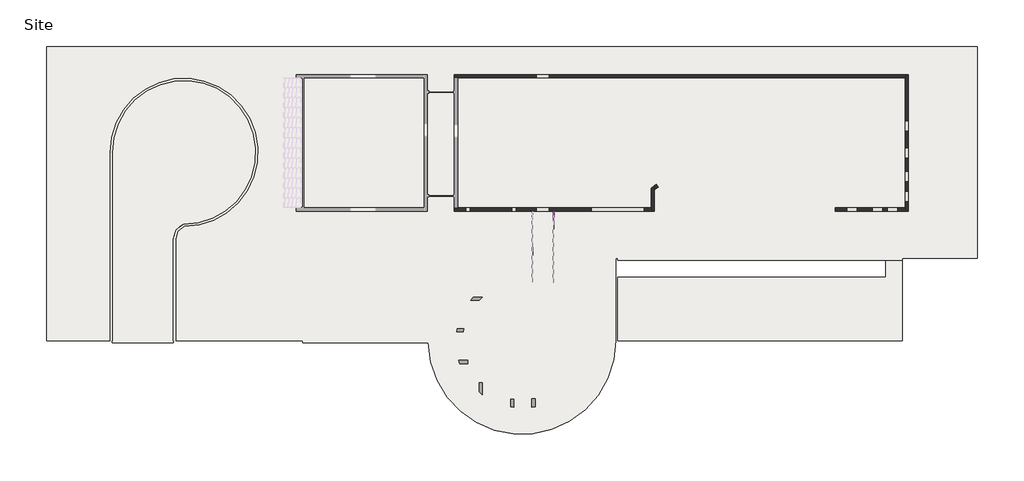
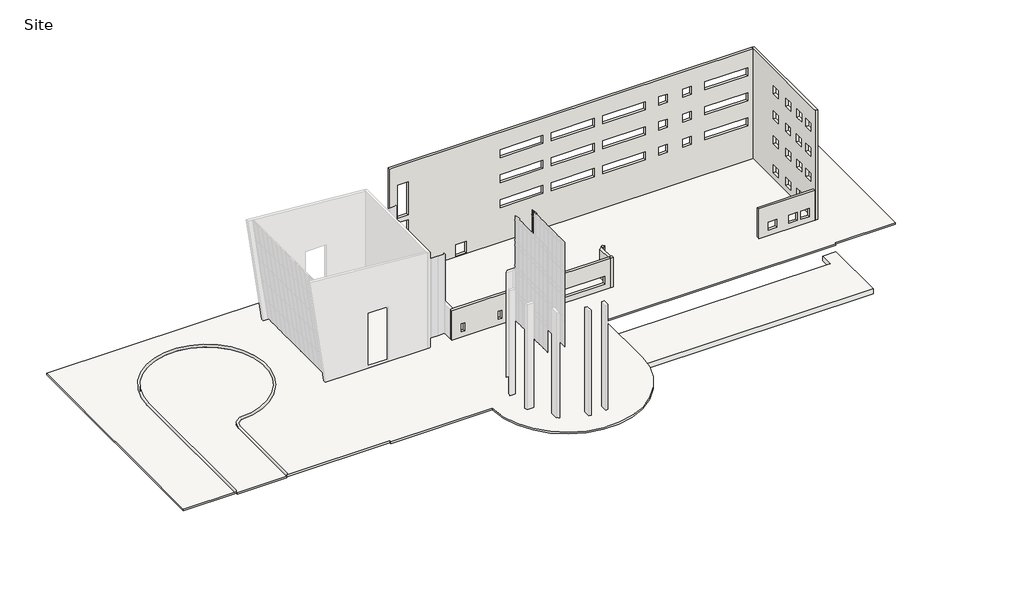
# One storey, part 4 of 4: 17 members, 6 walls, 3 slabs, 1 plate.
"""IFC4 building model written with IfcOpenShell, lengths in millimetres."""

from ifc_helpers import new_model, si_unit, point, frame, frame_2d, origin, place, context, project, spatial, polyline, circle_curve, trimmed, segment, composite_curve, outline, extrude, faceted_brep, transform, mapped, element, save
from ifc_brep_helpers import plane_surface, cylinder_surface, revolved_surface, advanced_brep
from components import member_5d07894b, member_3ba9e939, member_ad567e07, member_7db1855a, member_ffd4c858, member_15823cb3, member_e9605c56, system_panel_glazed_cc98a0ec

model = new_model("IFC4")

# Units and contexts
model_context = context("Model", 3, world=origin())
ifc_project = project(units=[si_unit("LENGTHUNIT", "METRE", prefix="MILLI")], contexts=[model_context])

# Site, building, storey
site = spatial("IfcSite", under=ifc_project)
building = spatial("IfcBuilding", under=site)
storey = spatial("IfcBuildingStorey", under=building, Name="Site", Elevation=-152.4)

# Members
placement = place(None, origin())
member_shape = member_5d07894b(model_context)
element("IfcMember", 1, ObjectType="Rectangular Mullion1 : 2.5\" x 5\" rectangular", at=placement, inside=storey, context=model_context, shape_type="MappedRepresentation", body=[
    mapped(member_shape, transform((10878.8276119, 37629.311889, -88.9), x_axis=(0.0, 1.0, 0.0), y_axis=(1.0, 0.0, 0.0), z_axis=(0.0, 0.0, -1.0))),
])
member_2_shape = member_3ba9e939(model_context)
element("IfcMember", 2, ObjectType="Rectangular Mullion1 : 2.5\" x 5\" rectangular", at=placement, inside=storey, context=model_context, shape_type="MappedRepresentation", body=[
    mapped(member_2_shape, transform((10878.8276119, 37629.311889, 5518.15), x_axis=(0.0, 1.0, 0.0), y_axis=(1.0, 0.0, 0.0), z_axis=(0.0, 0.0, -1.0))),
])
element("IfcMember", 3, ObjectType="Rectangular Mullion1 : 2.5\" x 5\" rectangular", at=placement, inside=storey, context=model_context, shape_type="MappedRepresentation", body=[
    mapped(member_2_shape, transform((10878.8276119, 37629.311889, 10242.55), x_axis=(0.0, 1.0, 0.0), y_axis=(1.0, 0.0, 0.0), z_axis=(0.0, 0.0, -1.0))),
])
element("IfcMember", 4, ObjectType="Rectangular Mullion1 : 2.5\" x 5\" rectangular", at=placement, inside=storey, context=model_context, shape_type="MappedRepresentation", body=[
    mapped(member_2_shape, transform((10878.8276119, 37629.311889, 14966.95), x_axis=(0.0, 1.0, 0.0), y_axis=(1.0, 0.0, 0.0), z_axis=(0.0, 0.0, -1.0))),
])
member_3_shape = member_ad567e07(model_context)
element("IfcMember", 5, ObjectType="Rectangular Mullion1 : 2.5\" x 5\" rectangular", at=placement, inside=storey, context=model_context, shape_type="MappedRepresentation", body=[
    mapped(member_3_shape, transform((10878.8276119, 37629.311889, 18776.95), x_axis=(0.0, 1.0, 0.0), y_axis=(1.0, 0.0, 0.0), z_axis=(0.0, 0.0, -1.0))),
])
member_4_shape = member_7db1855a(model_context)
element("IfcMember", 6, ObjectType="Rectangular Mullion1 : 2.5\" x 5\" rectangular", at=placement, inside=storey, context=model_context, shape_type="MappedRepresentation", body=[
    mapped(member_4_shape, transform((10878.8276119, 37629.311889, 14052.55), x_axis=(0.0, 1.0, 0.0), y_axis=(1.0, 0.0, 0.0), z_axis=(0.0, 0.0, -1.0))),
])
element("IfcMember", 7, ObjectType="Rectangular Mullion1 : 2.5\" x 5\" rectangular", at=placement, inside=storey, context=model_context, shape_type="MappedRepresentation", body=[
    mapped(member_4_shape, transform((10878.8276119, 37629.311889, 4603.75), x_axis=(0.0, 1.0, 0.0), y_axis=(1.0, 0.0, 0.0), z_axis=(0.0, 0.0, -1.0))),
])
element("IfcMember", 8, ObjectType="Rectangular Mullion1 : 2.5\" x 5\" rectangular", at=placement, inside=storey, context=model_context, shape_type="MappedRepresentation", body=[
    mapped(member_4_shape, transform((10878.8276119, 37629.311889, 9328.15), x_axis=(0.0, 1.0, 0.0), y_axis=(1.0, 0.0, 0.0), z_axis=(0.0, 0.0, -1.0))),
])
member_5_shape = member_ffd4c858(model_context)
element("IfcMember", 9, ObjectType="Rectangular Mullion1 : 2.5\" x 5\" rectangular", at=placement, inside=storey, context=model_context, shape_type="MappedRepresentation", body=[
    mapped(member_5_shape, transform((10878.8276119, 38086.511889, 14935.2), x_axis=(0.0, 0.0, 1.0), y_axis=(1.0, 0.0, 0.0), z_axis=(0.0, 1.0, 0.0))),
])
element("IfcMember", 10, ObjectType="Rectangular Mullion1 : 2.5\" x 5\" rectangular", at=placement, inside=storey, context=model_context, shape_type="MappedRepresentation", body=[
    mapped(member_5_shape, transform((10878.8276119, 38086.511889, 10210.8), x_axis=(0.0, 0.0, 1.0), y_axis=(1.0, 0.0, 0.0), z_axis=(0.0, 1.0, 0.0))),
])
element("IfcMember", 11, ObjectType="Rectangular Mullion1 : 2.5\" x 5\" rectangular", at=placement, inside=storey, context=model_context, shape_type="MappedRepresentation", body=[
    mapped(member_5_shape, transform((10878.8276119, 38086.511889, 5486.4), x_axis=(0.0, 0.0, 1.0), y_axis=(1.0, 0.0, 0.0), z_axis=(0.0, 1.0, 0.0))),
])
element("IfcMember", 12, ObjectType="Rectangular Mullion1 : 2.5\" x 5\" rectangular", at=placement, inside=storey, context=model_context, shape_type="MappedRepresentation", body=[
    mapped(member_5_shape, transform((10878.8276119, 38086.511889, 9296.4), x_axis=(0.0, 0.0, 1.0), y_axis=(1.0, 0.0, 0.0), z_axis=(0.0, 1.0, 0.0))),
])
element("IfcMember", 13, ObjectType="Rectangular Mullion1 : 2.5\" x 5\" rectangular", at=placement, inside=storey, context=model_context, shape_type="MappedRepresentation", body=[
    mapped(member_5_shape, transform((10878.8276119, 38086.511889, 4572.0), x_axis=(0.0, 0.0, 1.0), y_axis=(1.0, 0.0, 0.0), z_axis=(0.0, 1.0, 0.0))),
])
element("IfcMember", 14, ObjectType="Rectangular Mullion1 : 2.5\" x 5\" rectangular", at=placement, inside=storey, context=model_context, shape_type="MappedRepresentation", body=[
    mapped(member_5_shape, transform((10878.8276119, 38086.511889, 14020.8), x_axis=(0.0, 0.0, 1.0), y_axis=(1.0, 0.0, 0.0), z_axis=(0.0, 1.0, 0.0))),
])
element("IfcMember", 15, ObjectType="Rectangular Mullion1 : 2.5\" x 5\" rectangular", at=placement, inside=storey, context=model_context, shape_type="MappedRepresentation", body=[
    mapped(member_5_shape, transform((10878.8276119, 38086.511889, 18745.2), x_axis=(0.0, 0.0, 1.0), y_axis=(1.0, 0.0, 0.0), z_axis=(0.0, 1.0, 0.0))),
])
member_6_shape = member_15823cb3(model_context)
element("IfcMember", 16, ObjectType="Rectangular Mullion1 : 2.5\" x 5\" rectangular", at=placement, inside=storey, context=model_context, shape_type="MappedRepresentation", body=[
    mapped(member_6_shape, transform((10878.8276119, 37629.311889, -152.4), x_axis=(0.0, 0.0, -1.0), y_axis=(1.0, 0.0, 0.0), z_axis=(0.0, -1.0, 0.0))),
])
member_7_shape = member_e9605c56(model_context)
element("IfcMember", 17, ObjectType="Rectangular Mullion1 : 2.5\" x 5\" rectangular", at=placement, inside=storey, context=model_context, shape_type="MappedRepresentation", body=[
    mapped(member_7_shape, transform((10878.8276119, 37629.311889, 19659.6), x_axis=(0.0, 0.0, 1.0), y_axis=(1.0, 0.0, 0.0), z_axis=(0.0, 1.0, 0.0))),
])

# Plate
system_panel_glazed_shape = system_panel_glazed_cc98a0ec(model_context)
element("IfcPlate", 18, ObjectType="System Panel : Glazed", at=placement, inside=storey, context=model_context, shape_type="MappedRepresentation", body=[
    mapped(system_panel_glazed_shape, transform((10878.8276119, 37842.036889, 18776.95), x_axis=(0.0, 1.0, 0.0), y_axis=(-1.0, 0.0, 0.0), z_axis=(0.0, 0.0, 1.0))),
])

# Slabs
element("IfcSlab", 19, ObjectType="a_drive", at=placement, inside=storey, context=model_context, shape_type="SweptSolid", body=[
    extrude(outline(composite_curve([segment(trimmed(circle_curve(frame_2d((-42359.2307976, 46620.911889)), 10363.2), [point((-52722.4307976, 46620.911889))], [point((-42384.6461103, 36257.743054))], False, "CARTESIAN"), True, "CONTINUOUS"), segment(trimmed(circle_curve(frame_2d((-41679.1721267, 34169.1174245)), 2204.5522361), [point((-42384.6461103, 36257.743054))], [point((-43883.2307976, 34122.4704857))], True, "CARTESIAN"), True, "CONTINUOUS"), segment(polyline([(-43883.2307976, 34122.4704857), (-43883.2307976, 19188.911889), (-52722.4307976, 19188.911889), (-52722.4307976, 46620.911889)]), True, "CONTINUOUS")], self_intersect=False)), frame((0.0, 0.0, -457.2), z_axis=(0.0, 0.0, 1.0), x_axis=(1.0, 0.0, 0.0)), (0.0, 0.0, 1.0), 304.8),
])
element("IfcSlab", 20, ObjectType="a_site paving", at=placement, inside=storey, context=model_context, shape_type="SweptSolid", body=[
    extrude(outline(composite_curve([segment(polyline([(71940.7692024, 61860.911889), (71940.7692024, 31380.911889), (61120.3692024, 31380.911889), (61120.3692024, 31076.111889), (20124.7692024, 31076.111889), (20124.7692024, 31380.911889), (19819.9692024, 31380.911889), (19819.9692024, 19493.711889)]), True, "CONTINUOUS"), segment(trimmed(circle_curve(frame_2d((6332.9997246, 19493.711889)), 13486.9694778), [point((19819.9692024, 19493.711889))], [point((-7150.5251356, 19188.911889))], False, "CARTESIAN"), True, "CONTINUOUS"), segment(polyline([(-7150.5251356, 19188.911889), (-25290.4307976, 19188.911889), (-25290.4307976, 19493.711889), (-43883.2307976, 19493.711889), (-43883.2307976, 34122.4704857)]), True, "CONTINUOUS"), segment(trimmed(circle_curve(frame_2d((-41679.1721267, 34169.1174245)), 2204.5522361), [point((-43883.2307976, 34122.4704857))], [point((-42384.6461103, 36257.743054))], False, "CARTESIAN"), True, "CONTINUOUS"), segment(trimmed(circle_curve(frame_2d((-42359.2307976, 46620.911889)), 10363.2), [point((-42384.6461103, 36257.743054))], [point((-52722.4307976, 46620.911889))], True, "CARTESIAN"), True, "CONTINUOUS"), segment(polyline([(-52722.4307976, 46620.911889), (-52722.4307976, 19493.711889), (-62171.2307976, 19493.711889), (-62171.2307976, 61860.911889), (71940.7692024, 61860.911889)]), True, "CONTINUOUS")], self_intersect=False)), frame((0.0, 0.0, -457.2), z_axis=(0.0, 0.0, 1.0), x_axis=(1.0, 0.0, 0.0)), (0.0, 0.0, 1.0), 304.8),
])
element("IfcSlab", 21, ObjectType="water feature", at=placement, inside=storey, context=model_context, shape_type="SweptSolid", body=[
    extrude(outline(polyline([(20124.7692024, 28656.761889), (58732.7692024, 28656.761889), (58732.7692024, 31076.111889), (61120.3692024, 31076.111889), (61120.3692024, 19493.711889), (20124.7692024, 19493.711889), (20124.7692024, 28656.761889)])), frame((0.0, 0.0, -2590.8), z_axis=(0.0, 0.0, 1.0), x_axis=(1.0, 0.0, 0.0)), (0.0, 0.0, 1.0), 914.4),
])

# Walls
element("IfcWall", 22, ObjectType="Stone on CMU", at=placement, inside=storey, context=model_context, shape_type="AdvancedBrep", body=[
    advanced_brep(
    [(24926.9567024, 41466.5312272, -152.4), (24926.9567024, 38618.324389, -152.4), (24926.9567024, 38164.299389, -152.4), (24926.9567024, 38164.299389, 5486.4), (24926.9567024, 38618.324389, 5486.4), (24926.9567024, 38618.324389, 5181.6), (24926.9567024, 41466.5312272, 5181.6), (25380.9817024, 41789.4772012, -152.4), (25380.9817024, 41789.4772012, 5181.6), (25380.9817024, 38618.324389, 5181.6), (25380.9817024, 38618.324389, 5486.4), (25380.9817024, 38164.299389, 5486.4), (25380.9817024, 38164.299389, -152.4), (25380.9817024, 41234.3316602, -152.4)],
    [
        (0, 1),
        (1, 2),
        (2, 3),
        (3, 4),
        (4, 5),
        (5, 6),
        (6, 0),
        (7, 8),
        (8, 9),
        (9, 10),
        (10, 11),
        (11, 12),
        (12, 13),
        (13, 7),
        (0, 7, circle_curve(frame((38486.136956, 22884.5054507, -152.4), z_axis=(0.0, 0.0, -1.0), x_axis=(1.0, 0.0, 0.0)), 23003.1095965)),
        (12, 2),
        (3, 11),
        (10, 4),
        (9, 5),
        (8, 6, circle_curve(frame((38486.136956, 22884.5054507, 5181.6), z_axis=(0.0, 0.0, 1.0), x_axis=(1.0, 0.0, 0.0)), 23003.1095965)),
    ],
    [
        plane_surface(frame((24926.9567024, 41350.796414, -152.4), z_axis=(-1.0, 0.0, 0.0), x_axis=(0.0, -1.0, 0.0))),
        plane_surface(frame((25380.9817024, 41350.796414, -152.4), z_axis=(1.0, 0.0, 0.0), x_axis=(0.0, 1.0, 0.0))),
        plane_surface(frame((24926.9567024, 41350.796414, -152.4), z_axis=(0.0, 0.0, -1.0), x_axis=(1.0, 0.0, 0.0))),
        plane_surface(frame((24926.9567024, 38391.311889, 5486.4), z_axis=(0.0, 0.0, 1.0), x_axis=(1.0, 0.0, 0.0))),
        plane_surface(frame((24926.9567024, 38618.324389, 5486.4), z_axis=(0.0, 1.0, 0.0), x_axis=(1.0, 0.0, 0.0))),
        plane_surface(frame((24926.9567024, 38618.324389, 5181.6), z_axis=(0.0, 0.0, 1.0), x_axis=(1.0, 0.0, 0.0))),
        plane_surface(frame((24696.7692024, 38164.299389, -152.4), z_axis=(0.0, -1.0, 0.0), x_axis=(1.0, 0.0, 0.0))),
        cylinder_surface(frame((38486.136956, 22884.5054507, -152.4), z_axis=(0.0, 0.0, 1.0), x_axis=(1.0, 0.0, 0.0)), 23003.1095965),
    ],
    [
        (0, [[1, 2, 3, 4, 5, 6, 7]]),
        (1, [[8, 9, 10, 11, 12, 13, 14]]),
        (2, [[-2, -1, 15, -14, -13, 16]]),
        (3, [[-4, 17, -11, 18]]),
        (4, [[-5, -18, -10, 19]]),
        (5, [[-6, -19, -9, 20]]),
        (6, [[-3, -16, -12, -17]]),
        (7, [[-7, -20, -8, -15]]),
    ],
),
])
element("IfcWall", 23, ObjectType="Stone on CMU", at=placement, inside=storey, context=model_context, shape_type="Brep", body=[
    faceted_brep([(24926.9567024, 38618.324389, 5486.4), (6799.2942024, 38618.324389, 5486.4), (6656.4192024, 38618.324389, 5486.4), (-2965.7977165, 38618.324389, 5486.4), (-3419.8227165, 38618.324389, 5486.4), (-3419.8227165, 38164.299389, 5486.4), (24926.9567024, 38164.299389, 5486.4), (24926.9567024, 38618.324389, -152.4), (-2965.7977165, 38618.324389, -152.4), (-3419.8227165, 38618.324389, -152.4), (24926.9567024, 38618.324389, 5181.6), (4884.7692024, 38618.324389, 2438.4), (4884.7692024, 38618.324389, 914.4), (5494.3692024, 38618.324389, 914.4), (5494.3692024, 38618.324389, 2438.4), (-1750.9807976, 38618.324389, 2438.4), (-1750.9807976, 38618.324389, 914.4), (-1141.3807976, 38618.324389, 914.4), (-1141.3807976, 38618.324389, 2438.4), (16314.7692024, 38618.324389, 2438.4), (16314.7692024, 38618.324389, 914.4), (23934.7692024, 38618.324389, 914.4), (23934.7692024, 38618.324389, 2438.4), (8404.2567024, 38618.324389, 0.0), (10233.0567024, 38618.324389, 0.0), (10233.0567024, 38618.324389, 2133.6), (8404.2567024, 38618.324389, 2133.6), (24926.9567024, 38164.299389, -152.4), (-3419.8227165, 38164.299389, -152.4), (4884.7692024, 38164.299389, 2438.4), (5494.3692024, 38164.299389, 2438.4), (5494.3692024, 38164.299389, 914.4), (4884.7692024, 38164.299389, 914.4), (-1750.9807976, 38164.299389, 2438.4), (-1141.3807976, 38164.299389, 2438.4), (-1141.3807976, 38164.299389, 914.4), (-1750.9807976, 38164.299389, 914.4), (16314.7692024, 38164.299389, 2438.4), (23934.7692024, 38164.299389, 2438.4), (23934.7692024, 38164.299389, 914.4), (16314.7692024, 38164.299389, 914.4), (8404.2567024, 38164.299389, 0.0), (8404.2567024, 38164.299389, 2133.6), (10233.0567024, 38164.299389, 2133.6), (10233.0567024, 38164.299389, 0.0)], [[[0, 1, 2, 3, 4, 5, 6]], [[7, 8, 9, 4, 3, 2, 1, 0, 10], [11, 12, 13, 14], [15, 16, 17, 18], [19, 20, 21, 22], [23, 24, 25, 26]], [[27, 6, 5, 28], [29, 30, 31, 32], [33, 34, 35, 36], [37, 38, 39, 40], [41, 42, 43, 44]], [[9, 8, 7, 27, 28]], [[7, 10, 0, 6, 27]], [[4, 9, 28, 5]], [[12, 11, 29, 32]], [[13, 12, 32, 31]], [[14, 13, 31, 30]], [[11, 14, 30, 29]], [[16, 15, 33, 36]], [[17, 16, 36, 35]], [[18, 17, 35, 34]], [[15, 18, 34, 33]], [[20, 19, 37, 40]], [[21, 20, 40, 39]], [[22, 21, 39, 38]], [[19, 22, 38, 37]], [[42, 41, 23, 26]], [[43, 42, 26, 25]], [[44, 43, 25, 24]], [[41, 44, 24, 23]]]),
])
element("IfcWall", 24, ObjectType="Stone on CMU", at=placement, inside=storey, context=model_context, shape_type="Brep", body=[
    faceted_brep([(61502.9567024, 38618.324389, -152.4), (51444.5567024, 38618.324389, -152.4), (51444.5567024, 38618.324389, 0.0), (51444.5567024, 38618.324389, 5181.6), (51444.5567024, 38618.324389, 5486.4), (61502.9567024, 38618.324389, 5486.4), (53119.3692024, 38618.324389, 2438.4), (53119.3692024, 38618.324389, 914.4), (54643.3692024, 38618.324389, 914.4), (54643.3692024, 38618.324389, 2438.4), (56776.9692024, 38618.324389, 2438.4), (56776.9692024, 38618.324389, 914.4), (58300.9692024, 38618.324389, 914.4), (58300.9692024, 38618.324389, 2438.4), (58910.5692024, 38618.324389, 2438.4), (58910.5692024, 38618.324389, 914.4), (60434.5692024, 38618.324389, 914.4), (60434.5692024, 38618.324389, 2438.4), (61502.9567024, 38164.299389, -152.4), (61502.9567024, 38164.299389, 5486.4), (51444.5567024, 38164.299389, 5486.4), (51444.5567024, 38164.299389, -152.4), (53119.3692024, 38164.299389, 2438.4), (54643.3692024, 38164.299389, 2438.4), (54643.3692024, 38164.299389, 914.4), (53119.3692024, 38164.299389, 914.4), (56776.9692024, 38164.299389, 2438.4), (58300.9692024, 38164.299389, 2438.4), (58300.9692024, 38164.299389, 914.4), (56776.9692024, 38164.299389, 914.4), (58910.5692024, 38164.299389, 2438.4), (60434.5692024, 38164.299389, 2438.4), (60434.5692024, 38164.299389, 914.4), (58910.5692024, 38164.299389, 914.4)], [[[0, 1, 2, 3, 4, 5], [6, 7, 8, 9], [10, 11, 12, 13], [14, 15, 16, 17]], [[18, 19, 20, 21], [22, 23, 24, 25], [26, 27, 28, 29], [30, 31, 32, 33]], [[1, 0, 18, 21]], [[5, 4, 20, 19]], [[4, 3, 2, 1, 21, 20]], [[0, 5, 19, 18]], [[7, 6, 22, 25]], [[8, 7, 25, 24]], [[9, 8, 24, 23]], [[6, 9, 23, 22]], [[11, 10, 26, 29]], [[12, 11, 29, 28]], [[13, 12, 28, 27]], [[10, 13, 27, 26]], [[15, 14, 30, 33]], [[16, 15, 33, 32]], [[17, 16, 32, 31]], [[14, 17, 31, 30]]]),
])
element("IfcWall", 25, ObjectType="Stone on CMU", at=placement, inside=storey, context=model_context, shape_type="Brep", body=[
    faceted_brep([(-3419.8227165, 57366.699389, -152.4), (-2965.7977165, 57366.699389, -152.4), (61502.9567024, 57366.699389, -152.4), (61502.9567024, 57366.699389, 20574.0), (-2965.7977165, 57366.699389, 20574.0), (-3419.8227165, 57366.699389, 20574.0), (-3419.8227165, 57366.699389, 5486.4), (-1998.6307976, 57366.699389, 10820.4), (-1998.6307976, 57366.699389, 17068.8), (-169.8307976, 57366.699389, 17068.8), (-169.8307976, 57366.699389, 10820.4), (-1998.6307976, 57366.699389, 3657.6), (-1998.6307976, 57366.699389, 9906.0), (-169.8307976, 57366.699389, 9906.0), (-169.8307976, 57366.699389, 3657.6), (42222.7692024, 57366.699389, 7924.8), (42222.7692024, 57366.699389, 6400.8), (34602.7692024, 57366.699389, 6400.8), (34602.7692024, 57366.699389, 7924.8), (42222.7692024, 57366.699389, 12649.2), (42222.7692024, 57366.699389, 11125.2), (34602.7692024, 57366.699389, 11125.2), (34602.7692024, 57366.699389, 12649.2), (42222.7692024, 57366.699389, 17373.6), (42222.7692024, 57366.699389, 15849.6), (34602.7692024, 57366.699389, 15849.6), (34602.7692024, 57366.699389, 17373.6), (33078.7692024, 57366.699389, 7924.8), (33078.7692024, 57366.699389, 6400.8), (25458.7692024, 57366.699389, 6400.8), (25458.7692024, 57366.699389, 7924.8), (33078.7692024, 57366.699389, 12649.2), (33078.7692024, 57366.699389, 11125.2), (25458.7692024, 57366.699389, 11125.2), (25458.7692024, 57366.699389, 12649.2), (33078.7692024, 57366.699389, 17373.6), (33078.7692024, 57366.699389, 15849.6), (25458.7692024, 57366.699389, 15849.6), (25458.7692024, 57366.699389, 17373.6), (23934.7692024, 57366.699389, 7924.8), (23934.7692024, 57366.699389, 6400.8), (16314.7692024, 57366.699389, 6400.8), (16314.7692024, 57366.699389, 7924.8), (23934.7692024, 57366.699389, 12649.2), (23934.7692024, 57366.699389, 11125.2), (16314.7692024, 57366.699389, 11125.2), (16314.7692024, 57366.699389, 12649.2), (23934.7692024, 57366.699389, 17373.6), (23934.7692024, 57366.699389, 15849.6), (16314.7692024, 57366.699389, 15849.6), (16314.7692024, 57366.699389, 17373.6), (60510.7692024, 57366.699389, 7924.8), (60510.7692024, 57366.699389, 6400.8), (52890.7692024, 57366.699389, 6400.8), (52890.7692024, 57366.699389, 7924.8), (60510.7692024, 57366.699389, 12649.2), (60510.7692024, 57366.699389, 11125.2), (52890.7692024, 57366.699389, 11125.2), (52890.7692024, 57366.699389, 12649.2), (60510.7692024, 57366.699389, 17373.6), (60510.7692024, 57366.699389, 15849.6), (52890.7692024, 57366.699389, 15849.6), (52890.7692024, 57366.699389, 17373.6), (50452.3692024, 57366.699389, 17373.6), (50452.3692024, 57366.699389, 15849.6), (48928.3692024, 57366.699389, 15849.6), (48928.3692024, 57366.699389, 17373.6), (46185.1692024, 57366.699389, 17373.6), (46185.1692024, 57366.699389, 15849.6), (44661.1692024, 57366.699389, 15849.6), (44661.1692024, 57366.699389, 17373.6), (50452.3692024, 57366.699389, 12649.2), (50452.3692024, 57366.699389, 11125.2), (48928.3692024, 57366.699389, 11125.2), (48928.3692024, 57366.699389, 12649.2), (46185.1692024, 57366.699389, 12649.2), (46185.1692024, 57366.699389, 11125.2), (44661.1692024, 57366.699389, 11125.2), (44661.1692024, 57366.699389, 12649.2), (50452.3692024, 57366.699389, 7924.8), (50452.3692024, 57366.699389, 6400.8), (48928.3692024, 57366.699389, 6400.8), (48928.3692024, 57366.699389, 7924.8), (46185.1692024, 57366.699389, 7924.8), (46185.1692024, 57366.699389, 6400.8), (44661.1692024, 57366.699389, 6400.8), (44661.1692024, 57366.699389, 7924.8), (10233.0567024, 57366.699389, 0.0), (8404.2567024, 57366.699389, 0.0), (8404.2567024, 57366.699389, 2133.6), (10233.0567024, 57366.699389, 2133.6), (61502.9567024, 57820.724389, -152.4), (-3419.8227165, 57820.724389, -152.4), (-3419.8227165, 57820.724389, 20574.0), (61502.9567024, 57820.724389, 20574.0), (-1998.6307976, 57820.724389, 17068.8), (-1998.6307976, 57820.724389, 10820.4), (-169.8307976, 57820.724389, 10820.4), (-169.8307976, 57820.724389, 17068.8), (-1998.6307976, 57820.724389, 9906.0), (-1998.6307976, 57820.724389, 3657.6), (-169.8307976, 57820.724389, 3657.6), (-169.8307976, 57820.724389, 9906.0), (42222.7692024, 57820.724389, 7924.8), (34602.7692024, 57820.724389, 7924.8), (34602.7692024, 57820.724389, 6400.8), (42222.7692024, 57820.724389, 6400.8), (42222.7692024, 57820.724389, 12649.2), (34602.7692024, 57820.724389, 12649.2), (34602.7692024, 57820.724389, 11125.2), (42222.7692024, 57820.724389, 11125.2), (42222.7692024, 57820.724389, 17373.6), (34602.7692024, 57820.724389, 17373.6), (34602.7692024, 57820.724389, 15849.6), (42222.7692024, 57820.724389, 15849.6), (33078.7692024, 57820.724389, 7924.8), (25458.7692024, 57820.724389, 7924.8), (25458.7692024, 57820.724389, 6400.8), (33078.7692024, 57820.724389, 6400.8), (33078.7692024, 57820.724389, 12649.2), (25458.7692024, 57820.724389, 12649.2), (25458.7692024, 57820.724389, 11125.2), (33078.7692024, 57820.724389, 11125.2), (33078.7692024, 57820.724389, 17373.6), (25458.7692024, 57820.724389, 17373.6), (25458.7692024, 57820.724389, 15849.6), (33078.7692024, 57820.724389, 15849.6), (23934.7692024, 57820.724389, 7924.8), (16314.7692024, 57820.724389, 7924.8), (16314.7692024, 57820.724389, 6400.8), (23934.7692024, 57820.724389, 6400.8), (23934.7692024, 57820.724389, 12649.2), (16314.7692024, 57820.724389, 12649.2), (16314.7692024, 57820.724389, 11125.2), (23934.7692024, 57820.724389, 11125.2), (23934.7692024, 57820.724389, 17373.6), (16314.7692024, 57820.724389, 17373.6), (16314.7692024, 57820.724389, 15849.6), (23934.7692024, 57820.724389, 15849.6), (60510.7692024, 57820.724389, 7924.8), (52890.7692024, 57820.724389, 7924.8), (52890.7692024, 57820.724389, 6400.8), (60510.7692024, 57820.724389, 6400.8), (60510.7692024, 57820.724389, 12649.2), (52890.7692024, 57820.724389, 12649.2), (52890.7692024, 57820.724389, 11125.2), (60510.7692024, 57820.724389, 11125.2), (60510.7692024, 57820.724389, 17373.6), (52890.7692024, 57820.724389, 17373.6), (52890.7692024, 57820.724389, 15849.6), (60510.7692024, 57820.724389, 15849.6), (50452.3692024, 57820.724389, 17373.6), (48928.3692024, 57820.724389, 17373.6), (48928.3692024, 57820.724389, 15849.6), (50452.3692024, 57820.724389, 15849.6), (46185.1692024, 57820.724389, 17373.6), (44661.1692024, 57820.724389, 17373.6), (44661.1692024, 57820.724389, 15849.6), (46185.1692024, 57820.724389, 15849.6), (50452.3692024, 57820.724389, 12649.2), (48928.3692024, 57820.724389, 12649.2), (48928.3692024, 57820.724389, 11125.2), (50452.3692024, 57820.724389, 11125.2), (46185.1692024, 57820.724389, 12649.2), (44661.1692024, 57820.724389, 12649.2), (44661.1692024, 57820.724389, 11125.2), (46185.1692024, 57820.724389, 11125.2), (50452.3692024, 57820.724389, 7924.8), (48928.3692024, 57820.724389, 7924.8), (48928.3692024, 57820.724389, 6400.8), (50452.3692024, 57820.724389, 6400.8), (46185.1692024, 57820.724389, 7924.8), (44661.1692024, 57820.724389, 7924.8), (44661.1692024, 57820.724389, 6400.8), (46185.1692024, 57820.724389, 6400.8), (10233.0567024, 57820.724389, 0.0), (10233.0567024, 57820.724389, 2133.6), (8404.2567024, 57820.724389, 2133.6), (8404.2567024, 57820.724389, 0.0)], [[[0, 1, 2, 3, 4, 5, 6], [7, 8, 9, 10], [11, 12, 13, 14], [15, 16, 17, 18], [19, 20, 21, 22], [23, 24, 25, 26], [27, 28, 29, 30], [31, 32, 33, 34], [35, 36, 37, 38], [39, 40, 41, 42], [43, 44, 45, 46], [47, 48, 49, 50], [51, 52, 53, 54], [55, 56, 57, 58], [59, 60, 61, 62], [63, 64, 65, 66], [67, 68, 69, 70], [71, 72, 73, 74], [75, 76, 77, 78], [79, 80, 81, 82], [83, 84, 85, 86], [87, 88, 89, 90]], [[91, 92, 93, 94], [95, 96, 97, 98], [99, 100, 101, 102], [103, 104, 105, 106], [107, 108, 109, 110], [111, 112, 113, 114], [115, 116, 117, 118], [119, 120, 121, 122], [123, 124, 125, 126], [127, 128, 129, 130], [131, 132, 133, 134], [135, 136, 137, 138], [139, 140, 141, 142], [143, 144, 145, 146], [147, 148, 149, 150], [151, 152, 153, 154], [155, 156, 157, 158], [159, 160, 161, 162], [163, 164, 165, 166], [167, 168, 169, 170], [171, 172, 173, 174], [175, 176, 177, 178]], [[0, 6, 5, 93, 92]], [[96, 95, 8, 7]], [[97, 96, 7, 10]], [[98, 97, 10, 9]], [[95, 98, 9, 8]], [[99, 12, 11, 100]], [[100, 11, 14, 101]], [[101, 14, 13, 102]], [[12, 99, 102, 13]], [[15, 18, 104, 103]], [[18, 17, 105, 104]], [[17, 16, 106, 105]], [[16, 15, 103, 106]], [[19, 22, 108, 107]], [[22, 21, 109, 108]], [[21, 20, 110, 109]], [[20, 19, 107, 110]], [[23, 26, 112, 111]], [[26, 25, 113, 112]], [[25, 24, 114, 113]], [[24, 23, 111, 114]], [[27, 30, 116, 115]], [[30, 29, 117, 116]], [[29, 28, 118, 117]], [[28, 27, 115, 118]], [[31, 34, 120, 119]], [[34, 33, 121, 120]], [[33, 32, 122, 121]], [[32, 31, 119, 122]], [[35, 38, 124, 123]], [[38, 37, 125, 124]], [[37, 36, 126, 125]], [[36, 35, 123, 126]], [[39, 42, 128, 127]], [[42, 41, 129, 128]], [[41, 40, 130, 129]], [[40, 39, 127, 130]], [[43, 46, 132, 131]], [[46, 45, 133, 132]], [[45, 44, 134, 133]], [[44, 43, 131, 134]], [[47, 50, 136, 135]], [[50, 49, 137, 136]], [[49, 48, 138, 137]], [[48, 47, 135, 138]], [[51, 54, 140, 139]], [[54, 53, 141, 140]], [[53, 52, 142, 141]], [[52, 51, 139, 142]], [[55, 58, 144, 143]], [[58, 57, 145, 144]], [[57, 56, 146, 145]], [[56, 55, 143, 146]], [[59, 62, 148, 147]], [[62, 61, 149, 148]], [[61, 60, 150, 149]], [[60, 59, 147, 150]], [[63, 66, 152, 151]], [[66, 65, 153, 152]], [[65, 64, 154, 153]], [[64, 63, 151, 154]], [[67, 70, 156, 155]], [[70, 69, 157, 156]], [[69, 68, 158, 157]], [[68, 67, 155, 158]], [[71, 74, 160, 159]], [[74, 73, 161, 160]], [[73, 72, 162, 161]], [[72, 71, 159, 162]], [[75, 78, 164, 163]], [[78, 77, 165, 164]], [[77, 76, 166, 165]], [[76, 75, 163, 166]], [[79, 82, 168, 167]], [[82, 81, 169, 168]], [[81, 80, 170, 169]], [[80, 79, 167, 170]], [[83, 86, 172, 171]], [[86, 85, 173, 172]], [[85, 84, 174, 173]], [[84, 83, 171, 174]], [[3, 2, 91, 94]], [[2, 1, 0, 92, 91]], [[5, 4, 3, 94, 93]], [[176, 175, 87, 90]], [[177, 176, 90, 89]], [[178, 177, 89, 88]], [[175, 178, 88, 87]]]),
])
element("IfcWall", 26, ObjectType="Stone on CMU", at=placement, inside=storey, context=model_context, shape_type="Brep", body=[
    faceted_brep([(61502.9567024, 57820.724389, 20574.0), (61502.9567024, 57366.699389, 20574.0), (61502.9567024, 38618.324389, 20574.0), (61502.9567024, 38164.299389, 20574.0), (61956.9817024, 38164.299389, 20574.0), (61956.9817024, 57820.724389, 20574.0), (61502.9567024, 57820.724389, -152.4), (61502.9567024, 57366.699389, -152.4), (61502.9567024, 38618.324389, -152.4), (61502.9567024, 38164.299389, -152.4), (61502.9567024, 38164.299389, 5486.4), (61502.9567024, 49592.711889, 12649.2), (61502.9567024, 49592.711889, 11125.2), (61502.9567024, 51116.711889, 11125.2), (61502.9567024, 51116.711889, 12649.2), (61502.9567024, 39553.361889, 12649.2), (61502.9567024, 39553.361889, 11125.2), (61502.9567024, 41077.361889, 11125.2), (61502.9567024, 41077.361889, 12649.2), (61502.9567024, 45801.761889, 12649.2), (61502.9567024, 45801.761889, 11125.2), (61502.9567024, 47325.761889, 11125.2), (61502.9567024, 47325.761889, 12649.2), (61502.9567024, 42448.961889, 12649.2), (61502.9567024, 42448.961889, 11125.2), (61502.9567024, 43972.961889, 11125.2), (61502.9567024, 43972.961889, 12649.2), (61502.9567024, 45782.711889, 7924.8), (61502.9567024, 45782.711889, 6400.8), (61502.9567024, 47306.711889, 6400.8), (61502.9567024, 47306.711889, 7924.8), (61502.9567024, 42379.111889, 7924.8), (61502.9567024, 42379.111889, 6400.8), (61502.9567024, 43903.111889, 6400.8), (61502.9567024, 43903.111889, 7924.8), (61502.9567024, 39483.511889, 7924.8), (61502.9567024, 39483.511889, 6400.8), (61502.9567024, 41007.511889, 6400.8), (61502.9567024, 41007.511889, 7924.8), (61502.9567024, 49643.511889, 7924.8), (61502.9567024, 49643.511889, 6400.8), (61502.9567024, 51167.511889, 6400.8), (61502.9567024, 51167.511889, 7924.8), (61502.9567024, 45782.711889, 17373.6), (61502.9567024, 45782.711889, 15849.6), (61502.9567024, 47306.711889, 15849.6), (61502.9567024, 47306.711889, 17373.6), (61502.9567024, 42379.111889, 17373.6), (61502.9567024, 42379.111889, 15849.6), (61502.9567024, 43903.111889, 15849.6), (61502.9567024, 43903.111889, 17373.6), (61502.9567024, 39483.511889, 17373.6), (61502.9567024, 39483.511889, 15849.6), (61502.9567024, 41007.511889, 15849.6), (61502.9567024, 41007.511889, 17373.6), (61502.9567024, 49643.511889, 17373.6), (61502.9567024, 49643.511889, 15849.6), (61502.9567024, 51167.511889, 15849.6), (61502.9567024, 51167.511889, 17373.6), (61502.9567024, 49643.511889, 2438.4), (61502.9567024, 49643.511889, 914.4), (61502.9567024, 51167.511889, 914.4), (61502.9567024, 51167.511889, 2438.4), (61502.9567024, 45782.711889, 2438.4), (61502.9567024, 45782.711889, 914.4), (61502.9567024, 47306.711889, 914.4), (61502.9567024, 47306.711889, 2438.4), (61502.9567024, 42379.111889, 2438.4), (61502.9567024, 42379.111889, 914.4), (61502.9567024, 43903.111889, 914.4), (61502.9567024, 43903.111889, 2438.4), (61502.9567024, 39483.511889, 2438.4), (61502.9567024, 39483.511889, 914.4), (61502.9567024, 41007.511889, 914.4), (61502.9567024, 41007.511889, 2438.4), (61956.9817024, 57820.724389, -152.4), (61956.9817024, 38164.299389, -152.4), (61956.9817024, 49592.711889, 12649.2), (61956.9817024, 51116.711889, 12649.2), (61956.9817024, 51116.711889, 11125.2), (61956.9817024, 49592.711889, 11125.2), (61956.9817024, 39553.361889, 12649.2), (61956.9817024, 41077.361889, 12649.2), (61956.9817024, 41077.361889, 11125.2), (61956.9817024, 39553.361889, 11125.2), (61956.9817024, 45801.761889, 12649.2), (61956.9817024, 47325.761889, 12649.2), (61956.9817024, 47325.761889, 11125.2), (61956.9817024, 45801.761889, 11125.2), (61956.9817024, 42448.961889, 12649.2), (61956.9817024, 43972.961889, 12649.2), (61956.9817024, 43972.961889, 11125.2), (61956.9817024, 42448.961889, 11125.2), (61956.9817024, 45782.711889, 7924.8), (61956.9817024, 47306.711889, 7924.8), (61956.9817024, 47306.711889, 6400.8), (61956.9817024, 45782.711889, 6400.8), (61956.9817024, 42379.111889, 7924.8), (61956.9817024, 43903.111889, 7924.8), (61956.9817024, 43903.111889, 6400.8), (61956.9817024, 42379.111889, 6400.8), (61956.9817024, 39483.511889, 7924.8), (61956.9817024, 41007.511889, 7924.8), (61956.9817024, 41007.511889, 6400.8), (61956.9817024, 39483.511889, 6400.8), (61956.9817024, 49643.511889, 7924.8), (61956.9817024, 51167.511889, 7924.8), (61956.9817024, 51167.511889, 6400.8), (61956.9817024, 49643.511889, 6400.8), (61956.9817024, 45782.711889, 17373.6), (61956.9817024, 47306.711889, 17373.6), (61956.9817024, 47306.711889, 15849.6), (61956.9817024, 45782.711889, 15849.6), (61956.9817024, 42379.111889, 17373.6), (61956.9817024, 43903.111889, 17373.6), (61956.9817024, 43903.111889, 15849.6), (61956.9817024, 42379.111889, 15849.6), (61956.9817024, 39483.511889, 17373.6), (61956.9817024, 41007.511889, 17373.6), (61956.9817024, 41007.511889, 15849.6), (61956.9817024, 39483.511889, 15849.6), (61956.9817024, 49643.511889, 17373.6), (61956.9817024, 51167.511889, 17373.6), (61956.9817024, 51167.511889, 15849.6), (61956.9817024, 49643.511889, 15849.6), (61956.9817024, 49643.511889, 2438.4), (61956.9817024, 51167.511889, 2438.4), (61956.9817024, 51167.511889, 914.4), (61956.9817024, 49643.511889, 914.4), (61956.9817024, 45782.711889, 2438.4), (61956.9817024, 47306.711889, 2438.4), (61956.9817024, 47306.711889, 914.4), (61956.9817024, 45782.711889, 914.4), (61956.9817024, 42379.111889, 2438.4), (61956.9817024, 43903.111889, 2438.4), (61956.9817024, 43903.111889, 914.4), (61956.9817024, 42379.111889, 914.4), (61956.9817024, 39483.511889, 2438.4), (61956.9817024, 41007.511889, 2438.4), (61956.9817024, 41007.511889, 914.4), (61956.9817024, 39483.511889, 914.4)], [[[0, 1, 2, 3, 4, 5]], [[6, 7, 8, 9, 10, 3, 2, 1, 0], [11, 12, 13, 14], [15, 16, 17, 18], [19, 20, 21, 22], [23, 24, 25, 26], [27, 28, 29, 30], [31, 32, 33, 34], [35, 36, 37, 38], [39, 40, 41, 42], [43, 44, 45, 46], [47, 48, 49, 50], [51, 52, 53, 54], [55, 56, 57, 58], [59, 60, 61, 62], [63, 64, 65, 66], [67, 68, 69, 70], [71, 72, 73, 74]], [[75, 5, 4, 76], [77, 78, 79, 80], [81, 82, 83, 84], [85, 86, 87, 88], [89, 90, 91, 92], [93, 94, 95, 96], [97, 98, 99, 100], [101, 102, 103, 104], [105, 106, 107, 108], [109, 110, 111, 112], [113, 114, 115, 116], [117, 118, 119, 120], [121, 122, 123, 124], [125, 126, 127, 128], [129, 130, 131, 132], [133, 134, 135, 136], [137, 138, 139, 140]], [[9, 8, 7, 6, 75, 76]], [[3, 10, 9, 76, 4]], [[6, 0, 5, 75]], [[12, 11, 77, 80]], [[13, 12, 80, 79]], [[14, 13, 79, 78]], [[11, 14, 78, 77]], [[16, 15, 81, 84]], [[17, 16, 84, 83]], [[18, 17, 83, 82]], [[15, 18, 82, 81]], [[20, 19, 85, 88]], [[21, 20, 88, 87]], [[22, 21, 87, 86]], [[19, 22, 86, 85]], [[24, 23, 89, 92]], [[25, 24, 92, 91]], [[26, 25, 91, 90]], [[23, 26, 90, 89]], [[28, 27, 93, 96]], [[29, 28, 96, 95]], [[30, 29, 95, 94]], [[27, 30, 94, 93]], [[32, 31, 97, 100]], [[33, 32, 100, 99]], [[34, 33, 99, 98]], [[31, 34, 98, 97]], [[36, 35, 101, 104]], [[37, 36, 104, 103]], [[38, 37, 103, 102]], [[35, 38, 102, 101]], [[40, 39, 105, 108]], [[41, 40, 108, 107]], [[42, 41, 107, 106]], [[39, 42, 106, 105]], [[44, 43, 109, 112]], [[45, 44, 112, 111]], [[46, 45, 111, 110]], [[43, 46, 110, 109]], [[48, 47, 113, 116]], [[49, 48, 116, 115]], [[50, 49, 115, 114]], [[47, 50, 114, 113]], [[52, 51, 117, 120]], [[53, 52, 120, 119]], [[54, 53, 119, 118]], [[51, 54, 118, 117]], [[56, 55, 121, 124]], [[57, 56, 124, 123]], [[58, 57, 123, 122]], [[55, 58, 122, 121]], [[60, 59, 125, 128]], [[61, 60, 128, 127]], [[62, 61, 127, 126]], [[59, 62, 126, 125]], [[64, 63, 129, 132]], [[65, 64, 132, 131]], [[66, 65, 131, 130]], [[63, 66, 130, 129]], [[68, 67, 133, 136]], [[69, 68, 136, 135]], [[70, 69, 135, 134]], [[67, 70, 134, 133]], [[72, 71, 137, 140]], [[73, 72, 140, 139]], [[74, 73, 139, 138]], [[71, 74, 138, 137]]]),
])
element("IfcWall", 27, ObjectType="Stone on CMU", at=placement, inside=storey, context=model_context, shape_type="AdvancedBrep", body=[
    advanced_brep(
    [(25380.9817024, 41234.3316602, 5334.0), (25929.0344501, 41613.6376462, 5334.0), (25676.1976468, 41990.7480433, 5334.0), (25380.9817024, 41789.4772012, 5334.0), (25380.9817024, 41234.3316602, -152.4), (25380.9817024, 41789.4772012, -152.4), (25676.1976468, 41990.7480433, -152.4), (25929.0344501, 41613.6376462, -152.4), (25380.9817024, 41789.4772012, 5181.6)],
    [
        (0, 1, circle_curve(frame((38486.136956, 22884.5054507, 5334.0), z_axis=(0.0, 0.0, -1.0), x_axis=(1.0, 0.0, 0.0)), 22549.0845965)),
        (1, 2),
        (2, 3, circle_curve(frame((38486.136956, 22884.5054507, 5334.0), z_axis=(0.0, 0.0, 1.0), x_axis=(1.0, 0.0, 0.0)), 23003.1095965)),
        (3, 0),
        (4, 5),
        (5, 6, circle_curve(frame((38486.136956, 22884.5054507, -152.4), z_axis=(0.0, 0.0, -1.0), x_axis=(1.0, 0.0, 0.0)), 23003.1095965)),
        (6, 7),
        (7, 4, circle_curve(frame((38486.136956, 22884.5054507, -152.4), z_axis=(0.0, 0.0, 1.0), x_axis=(1.0, 0.0, 0.0)), 22549.0845965)),
        (0, 4),
        (7, 1),
        (6, 2),
        (5, 8),
        (8, 3),
    ],
    [
        plane_surface(frame((61035.2215526, 22884.5054507, 5334.0), z_axis=(0.0, 0.0, 1.0), x_axis=(0.0, -1.0, 0.0))),
        plane_surface(frame((61035.2215526, 22884.5054507, -152.4), z_axis=(0.0, 0.0, -1.0), x_axis=(0.0, 1.0, 0.0))),
        revolved_surface(polyline([(61035.22155250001, 22884.5054507, -152.4), (61035.22155250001, 22884.5054507, 5334.0)]), (38486.136956, 22884.5054507, -152.4), (0.0, 0.0, -1.0)),
        plane_surface(frame((25929.0344501, 41613.6376462, 5334.0), z_axis=(0.8305939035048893, 0.5568785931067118, 0.0), x_axis=(0.0, 0.0, -1.0))),
        cylinder_surface(frame((38486.136956, 22884.5054507, -152.4), z_axis=(0.0, 0.0, 1.0), x_axis=(1.0, 0.0, 0.0)), 23003.1095965),
        plane_surface(frame((25380.9817024, 41350.796414, -152.4), z_axis=(-1.0, 0.0, 0.0), x_axis=(0.0, 1.0, 0.0))),
    ],
    [
        (0, [[1, 2, 3, 4]]),
        (1, [[5, 6, 7, 8]]),
        (2, [[-1, 9, -8, 10]]),
        (3, [[-2, -10, -7, 11]]),
        (4, [[-3, -11, -6, 12, 13]]),
        (5, [[-4, -13, -12, -5, -9]]),
    ],
),
])

save(model, "model.ifc")
